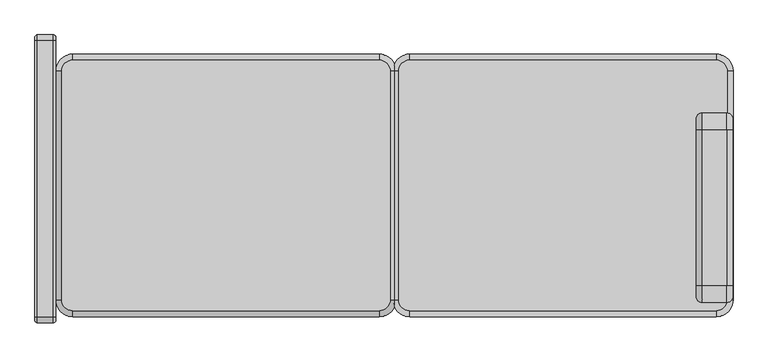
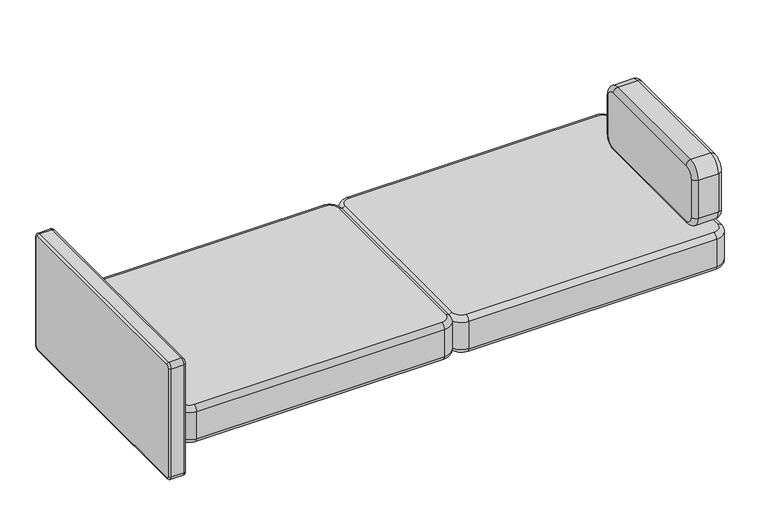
"""IFC4 building model written with IfcOpenShell, lengths in millimetres: furniture geometry, Fredericia - EJ220 Sofa 2 seater 100 - 2062 : Fredericia - EJ220 Sofa 2 seater 100 - 2062."""

from ifc_helpers import new_model, si_unit, point, frame, origin, place, context, project, spatial, circle_curve, ellipse_curve, trimmed, source, transform, mapped, element, save
from ifc_brep_helpers import plane_surface, cylinder_surface, revolved_surface, advanced_brep


def furniture_535c16df(model_context):
    return source(origin(), model_context, "Body", "AdvancedBrep", [
        advanced_brep(
        [(982.2998936, 743.0641303, 290.0), (982.2998936, 67.7, 290.0), (949.6320736, 35.0321801, 290.0), (45.0, 35.0321801, 290.0), (12.3321801, 67.7, 290.0), (12.3321801, 743.0641303, 290.0), (45.0, 775.7319503, 290.0), (949.6320736, 775.7319503, 290.0), (982.2998936, 67.7, 429.8211901), (982.2998936, 743.0641303, 429.8211901), (949.6320736, 775.7319503, 429.8211901), (45.0, 775.7319503, 429.8211901), (12.3321801, 743.0641303, 429.8211901), (12.3321801, 67.7, 429.8211901), (45.0, 35.0321801, 429.8211901), (949.6320736, 35.0321801, 429.8211901), (999.6320736, 743.0641303, 307.3273289), (999.6320736, 743.0641303, 412.4890101), (999.6320736, 67.7, 412.4890101), (999.6320736, 67.7, 307.3273289), (949.6320736, 17.7, 307.3273289), (949.6320736, 17.7, 412.4890101), (45.0, 17.7, 412.4890101), (45.0, 17.7, 307.3273289), (-5.0, 67.7, 307.3273289), (-5.0, 67.7, 412.4890101), (-5.0, 743.0641303, 412.4890101), (-5.0, 743.0641303, 307.3273289), (45.0, 793.0641303, 307.3273289), (45.0, 793.0641303, 412.4890101), (949.6320736, 793.0641303, 412.4890101), (949.6320736, 793.0641303, 307.3273289)],
        [
            (0, 1),
            (1, 2, circle_curve(frame((949.6320736, 67.7, 290.0), z_axis=(0.0, 0.0, -1.0), x_axis=(1.0, 0.0, 0.0)), 32.6678199)),
            (2, 3),
            (3, 4, circle_curve(frame((45.0, 67.7, 290.0), z_axis=(0.0, 0.0, -1.0), x_axis=(0.0, -1.0, 0.0)), 32.6678199)),
            (4, 5),
            (5, 6, circle_curve(frame((45.0, 743.0641303, 290.0), z_axis=(0.0, 0.0, -1.0), x_axis=(-1.0, 0.0, 0.0)), 32.6678199)),
            (6, 7),
            (7, 0, circle_curve(frame((949.6320736, 743.0641303, 290.0), z_axis=(0.0, 0.0, -1.0), x_axis=(0.0, 1.0, 0.0)), 32.6678199)),
            (8, 9),
            (9, 10, circle_curve(frame((949.6320736, 743.0641303, 429.8211901), z_axis=(0.0, 0.0, 1.0), x_axis=(0.0, 1.0, 0.0)), 32.6678199)),
            (10, 11),
            (11, 12, circle_curve(frame((45.0, 743.0641303, 429.8211901), z_axis=(0.0, 0.0, 1.0), x_axis=(-1.0, 0.0, 0.0)), 32.6678199)),
            (12, 13),
            (13, 14, circle_curve(frame((45.0, 67.7, 429.8211901), z_axis=(0.0, 0.0, 1.0), x_axis=(0.0, -1.0, 0.0)), 32.6678199)),
            (14, 15),
            (15, 8, circle_curve(frame((949.6320736, 67.7, 429.8211901), z_axis=(0.0, 0.0, 1.0), x_axis=(1.0, 0.0, 0.0)), 32.6678199)),
            (16, 17),
            (17, 18),
            (18, 19),
            (19, 16),
            (20, 21),
            (21, 22),
            (22, 23),
            (23, 20),
            (24, 25),
            (25, 26),
            (26, 27),
            (27, 24),
            (28, 29),
            (29, 30),
            (30, 31),
            (31, 28),
            (19, 1, circle_curve(frame((982.2998936, 67.7, 307.3273289), z_axis=(0.0, 1.0, 0.0), x_axis=(-1.0, 0.0, 0.0)), 17.3321801)),
            (0, 16, circle_curve(frame((982.2998936, 743.0641303, 307.3273289), z_axis=(0.0, -1.0, 0.0), x_axis=(-1.0, 0.0, 0.0)), 17.3321801)),
            (17, 9, circle_curve(frame((982.2998936, 743.0641303, 412.4890101), z_axis=(0.0, -1.0, 0.0), x_axis=(-1.0, 0.0, 0.0)), 17.3321801)),
            (8, 18, circle_curve(frame((982.2998936, 67.7, 412.4890101), z_axis=(0.0, 1.0, 0.0), x_axis=(-1.0, 0.0, 0.0)), 17.3321801)),
            (23, 3, circle_curve(frame((45.0, 35.0321801, 307.3273289), z_axis=(1.0, 0.0, 0.0), x_axis=(0.0, 1.0, 0.0)), 17.3321801)),
            (2, 20, circle_curve(frame((949.6320736, 35.0321801, 307.3273289), z_axis=(-1.0, 0.0, 0.0), x_axis=(0.0, 1.0, 0.0)), 17.3321801)),
            (21, 15, circle_curve(frame((949.6320736, 35.0321801, 412.4890101), z_axis=(-1.0, 0.0, 0.0), x_axis=(0.0, 1.0, 0.0)), 17.3321801)),
            (14, 22, circle_curve(frame((45.0, 35.0321801, 412.4890101), z_axis=(1.0, 0.0, 0.0), x_axis=(0.0, 1.0, 0.0)), 17.3321801)),
            (27, 5, circle_curve(frame((12.3321801, 743.0641303, 307.3273289), z_axis=(0.0, -1.0, 0.0), x_axis=(1.0, 0.0, 0.0)), 17.3321801)),
            (4, 24, circle_curve(frame((12.3321801, 67.7, 307.3273289), z_axis=(0.0, 1.0, 0.0), x_axis=(1.0, 0.0, 0.0)), 17.3321801)),
            (25, 13, circle_curve(frame((12.3321801, 67.7, 412.4890101), z_axis=(0.0, 1.0, 0.0), x_axis=(1.0, 0.0, 0.0)), 17.3321801)),
            (12, 26, circle_curve(frame((12.3321801, 743.0641303, 412.4890101), z_axis=(0.0, -1.0, 0.0), x_axis=(1.0, 0.0, 0.0)), 17.3321801)),
            (31, 7, circle_curve(frame((949.6320736, 775.7319503, 307.3273289), z_axis=(-1.0, 0.0, 0.0), x_axis=(0.0, -1.0, 0.0)), 17.3321801)),
            (6, 28, circle_curve(frame((45.0, 775.7319503, 307.3273289), z_axis=(1.0, 0.0, 0.0), x_axis=(0.0, -1.0, 0.0)), 17.3321801)),
            (29, 11, circle_curve(frame((45.0, 775.7319503, 412.4890101), z_axis=(1.0, 0.0, 0.0), x_axis=(0.0, -1.0, 0.0)), 17.3321801)),
            (10, 30, circle_curve(frame((949.6320736, 775.7319503, 412.4890101), z_axis=(-1.0, 0.0, 0.0), x_axis=(0.0, -1.0, 0.0)), 17.3321801)),
            (31, 16, circle_curve(frame((949.6320736, 743.0641303, 307.3273289), z_axis=(0.0, 0.0, -1.0), x_axis=(0.0, 1.0, 0.0)), 50.0)),
            (30, 17, circle_curve(frame((949.6320736, 743.0641303, 412.4890101), z_axis=(0.0, 0.0, -1.0), x_axis=(0.0, 1.0, 0.0)), 50.0)),
            (19, 20, circle_curve(frame((949.6320736, 67.7, 307.3273289), z_axis=(0.0, 0.0, -1.0), x_axis=(1.0, 0.0, 0.0)), 50.0)),
            (18, 21, circle_curve(frame((949.6320736, 67.7, 412.4890101), z_axis=(0.0, 0.0, -1.0), x_axis=(1.0, 0.0, 0.0)), 50.0)),
            (23, 24, circle_curve(frame((45.0, 67.7, 307.3273289), z_axis=(0.0, 0.0, -1.0), x_axis=(0.0, -1.0, 0.0)), 50.0)),
            (22, 25, circle_curve(frame((45.0, 67.7, 412.4890101), z_axis=(0.0, 0.0, -1.0), x_axis=(0.0, -1.0, 0.0)), 50.0)),
            (27, 28, circle_curve(frame((45.0, 743.0641303, 307.3273289), z_axis=(0.0, 0.0, -1.0), x_axis=(-1.0, 0.0, 0.0)), 50.0)),
            (26, 29, circle_curve(frame((45.0, 743.0641303, 412.4890101), z_axis=(0.0, 0.0, -1.0), x_axis=(-1.0, 0.0, 0.0)), 50.0)),
        ],
        [
            plane_surface(frame((919.6320736, 67.7, 290.0), z_axis=(0.0, 0.0, -1.0), x_axis=(0.0, 1.0, 0.0))),
            plane_surface(frame((919.6320736, 67.7, 429.8211901), z_axis=(0.0, 0.0, 1.0), x_axis=(0.0, -1.0, 0.0))),
            plane_surface(frame((999.6320736, 743.0641303, 412.4890101), z_axis=(1.0, 0.0, 0.0), x_axis=(0.0, -1.0, 0.0))),
            plane_surface(frame((949.6320736, 17.7, 412.4890101), z_axis=(0.0, -1.0, 0.0), x_axis=(-1.0, 0.0, 0.0))),
            plane_surface(frame((-5.0, 67.7, 412.4890101), z_axis=(-1.0, 0.0, 0.0), x_axis=(0.0, 1.0, 0.0))),
            plane_surface(frame((45.0, 793.0641303, 412.4890101), z_axis=(0.0, 1.0, 0.0), x_axis=(1.0, 0.0, 0.0))),
            cylinder_surface(frame((982.2998936, 743.0641303, 307.3273289), z_axis=(0.0, 1.0, 0.0), x_axis=(-1.0, 0.0, 0.0)), 17.3321801),
            cylinder_surface(frame((982.2998936, 743.0641303, 412.4890101), z_axis=(0.0, 1.0, 0.0), x_axis=(-1.0, 0.0, 0.0)), 17.3321801),
            cylinder_surface(frame((949.6320736, 35.0321801, 307.3273289), z_axis=(1.0, 0.0, 0.0), x_axis=(0.0, 1.0, 0.0)), 17.3321801),
            cylinder_surface(frame((949.6320736, 35.0321801, 412.4890101), z_axis=(1.0, 0.0, 0.0), x_axis=(0.0, 1.0, 0.0)), 17.3321801),
            cylinder_surface(frame((12.3321801, 67.7, 307.3273289), z_axis=(0.0, -1.0, 0.0), x_axis=(1.0, 0.0, 0.0)), 17.3321801),
            cylinder_surface(frame((12.3321801, 67.7, 412.4890101), z_axis=(0.0, -1.0, 0.0), x_axis=(1.0, 0.0, 0.0)), 17.3321801),
            cylinder_surface(frame((45.0, 775.7319503, 307.3273289), z_axis=(-1.0, 0.0, 0.0), x_axis=(0.0, -1.0, 0.0)), 17.3321801),
            cylinder_surface(frame((45.0, 775.7319503, 412.4890101), z_axis=(-1.0, 0.0, 0.0), x_axis=(0.0, -1.0, 0.0)), 17.3321801),
            revolved_surface(trimmed(ellipse_curve(frame((949.6320736, 775.7319503, 307.3273289), z_axis=(-1.0, 0.0, 0.0), x_axis=(0.0, -1.0, 0.0)), 17.3321801, 17.3321801), [point((949.6320736, 793.0641303, 307.3273289))], [point((949.6320736, 775.7319503, 289.9951488))], True, "CARTESIAN"), (949.6320736, 743.0641303, 474.7169816), (0.0, 0.0, -1.0)),
            cylinder_surface(frame((949.6320736, 743.0641303, 474.7169816), z_axis=(0.0, 0.0, -1.0), x_axis=(0.0, 1.0, 0.0)), 50.0),
            revolved_surface(trimmed(ellipse_curve(frame((949.6320736, 775.7319503, 412.4890101), z_axis=(-1.0, 0.0, 0.0), x_axis=(0.0, -1.0, 0.0)), 17.3321801, 17.3321801), [point((949.6320736, 775.7319503, 429.8211901))], [point((949.6320736, 793.0641303, 412.4890101))], True, "CARTESIAN"), (949.6320736, 743.0641303, 474.7169816), (0.0, 0.0, -1.0)),
            revolved_surface(trimmed(ellipse_curve(frame((982.2998936, 67.7, 307.3273289), z_axis=(0.0, 1.0, 0.0), x_axis=(-1.0, 0.0, 0.0)), 17.3321801, 17.3321801), [point((999.6320736, 67.7, 307.3273289))], [point((982.2998936, 67.7, 289.9951488))], True, "CARTESIAN"), (949.6320736, 67.7, 474.7169816), (0.0, 0.0, -1.0)),
            cylinder_surface(frame((949.6320736, 67.7, 474.7169816), z_axis=(0.0, 0.0, -1.0), x_axis=(1.0, 0.0, 0.0)), 50.0),
            revolved_surface(trimmed(ellipse_curve(frame((982.2998936, 67.7, 412.4890101), z_axis=(0.0, 1.0, 0.0), x_axis=(-1.0, 0.0, 0.0)), 17.3321801, 17.3321801), [point((982.2998936, 67.7, 429.8211901))], [point((999.6320736, 67.7, 412.4890101))], True, "CARTESIAN"), (949.6320736, 67.7, 474.7169816), (0.0, 0.0, -1.0)),
            revolved_surface(trimmed(ellipse_curve(frame((45.0, 35.0321801, 307.3273289), z_axis=(1.0, 0.0, 0.0), x_axis=(0.0, 1.0, 0.0)), 17.3321801, 17.3321801), [point((45.0, 17.7, 307.3273289))], [point((45.0, 35.0321801, 289.9951488))], True, "CARTESIAN"), (45.0, 67.7, 474.7169816), (0.0, 0.0, -1.0)),
            cylinder_surface(frame((45.0, 67.7, 474.7169816), z_axis=(0.0, 0.0, -1.0), x_axis=(0.0, -1.0, 0.0)), 50.0),
            revolved_surface(trimmed(ellipse_curve(frame((45.0, 35.0321801, 412.4890101), z_axis=(1.0, 0.0, 0.0), x_axis=(0.0, 1.0, 0.0)), 17.3321801, 17.3321801), [point((45.0, 35.0321801, 429.8211901))], [point((45.0, 17.7, 412.4890101))], True, "CARTESIAN"), (45.0, 67.7, 474.7169816), (0.0, 0.0, -1.0)),
            revolved_surface(trimmed(ellipse_curve(frame((12.3321801, 743.0641303, 307.3273289), z_axis=(0.0, -1.0, 0.0), x_axis=(1.0, 0.0, 0.0)), 17.3321801, 17.3321801), [point((-5.0, 743.0641303, 307.3273289))], [point((12.3321801, 743.0641303, 289.9951488))], True, "CARTESIAN"), (45.0, 743.0641303, 474.7169816), (0.0, 0.0, -1.0)),
            cylinder_surface(frame((45.0, 743.0641303, 474.7169816), z_axis=(0.0, 0.0, -1.0), x_axis=(-1.0, 0.0, 0.0)), 50.0),
            revolved_surface(trimmed(ellipse_curve(frame((12.3321801, 743.0641303, 412.4890101), z_axis=(0.0, -1.0, 0.0), x_axis=(1.0, 0.0, 0.0)), 17.3321801, 17.3321801), [point((12.3321801, 743.0641303, 429.8211901))], [point((-5.0, 743.0641303, 412.4890101))], True, "CARTESIAN"), (45.0, 743.0641303, 474.7169816), (0.0, 0.0, -1.0)),
        ],
        [
            (0, [[1, 2, 3, 4, 5, 6, 7, 8]]),
            (1, [[9, 10, 11, 12, 13, 14, 15, 16]]),
            (2, [[17, 18, 19, 20]]),
            (3, [[21, 22, 23, 24]]),
            (4, [[25, 26, 27, 28]]),
            (5, [[29, 30, 31, 32]]),
            (6, [[-20, 33, -1, 34]]),
            (7, [[-18, 35, -9, 36]]),
            (8, [[-24, 37, -3, 38]]),
            (9, [[-22, 39, -15, 40]]),
            (10, [[-28, 41, -5, 42]]),
            (11, [[-26, 43, -13, 44]]),
            (12, [[-32, 45, -7, 46]]),
            (13, [[-30, 47, -11, 48]]),
            (14, [[-34, -8, -45, 49]]),
            (15, [[-17, -49, -31, 50]]),
            (16, [[-35, -50, -48, -10]]),
            (17, [[-33, 51, -38, -2]]),
            (18, [[-19, 52, -21, -51]]),
            (19, [[-36, -16, -39, -52]]),
            (20, [[-37, 53, -42, -4]]),
            (21, [[-23, 54, -25, -53]]),
            (22, [[-40, -14, -43, -54]]),
            (23, [[-41, 55, -46, -6]]),
            (24, [[-27, 56, -29, -55]]),
            (25, [[-44, -12, -47, -56]]),
        ],
    ),
        advanced_brep(
        [(-999.6320736, 7.0681487, 623.8042203), (-999.6320736, 7.0681487, 207.3057774), (-999.6320736, 16.6681487, 197.7057774), (-999.6320736, 833.2580585, 197.7057774), (-999.6320736, 842.8580585, 207.3057774), (-999.6320736, 842.8580585, 623.8042203), (-999.6320736, 833.2580585, 633.4042203), (-999.6320736, 16.6681487, 633.4042203), (-1061.0578822, 7.0681487, 207.3057774), (-1061.0578822, 7.0681487, 623.8042203), (-1061.0578822, 16.6681487, 633.4042203), (-1061.0578822, 833.2580585, 633.4042203), (-1061.0578822, 842.8580585, 623.8042203), (-1061.0578822, 842.8580585, 207.3057774), (-1061.0578822, 833.2580585, 197.7057774), (-1061.0578822, 16.6681487, 197.7057774), (-1007.1320736, -0.4318513, 207.3057774), (-1007.1320736, -0.4318513, 623.8042203), (-1053.5578822, -0.4318513, 623.8042203), (-1053.5578822, -0.4318513, 207.3057774), (-1007.1320736, 16.6681487, 640.9042203), (-1007.1320736, 833.2580585, 640.9042203), (-1053.5578822, 833.2580585, 640.9042203), (-1053.5578822, 16.6681487, 640.9042203), (-1007.1320736, 850.3580585, 623.8042203), (-1007.1320736, 850.3580585, 207.3057774), (-1053.5578822, 850.3580585, 207.3057774), (-1053.5578822, 850.3580585, 623.8042203), (-1007.1320736, 833.2580585, 190.2057774), (-1007.1320736, 16.6681487, 190.2057774), (-1053.5578822, 16.6681487, 190.2057774), (-1053.5578822, 833.2580585, 190.2057774)],
        [
            (0, 1),
            (1, 2, circle_curve(frame((-999.6320736, 16.6681487, 207.3057774), z_axis=(1.0, 0.0, 0.0), x_axis=(0.0, 0.0, -1.0)), 9.6)),
            (2, 3),
            (3, 4, circle_curve(frame((-999.6320736, 833.2580585, 207.3057774), z_axis=(1.0, 0.0, 0.0), x_axis=(0.0, 1.0, 0.0)), 9.6)),
            (4, 5),
            (5, 6, circle_curve(frame((-999.6320736, 833.2580585, 623.8042203), z_axis=(1.0, 0.0, 0.0), x_axis=(0.0, 0.0, 1.0)), 9.6)),
            (6, 7),
            (7, 0, circle_curve(frame((-999.6320736, 16.6681487, 623.8042203), z_axis=(1.0, 0.0, 0.0), x_axis=(0.0, -1.0, 0.0)), 9.6)),
            (8, 9),
            (9, 10, circle_curve(frame((-1061.0578822, 16.6681487, 623.8042203), z_axis=(-1.0, 0.0, 0.0), x_axis=(0.0, -1.0, 0.0)), 9.6)),
            (10, 11),
            (11, 12, circle_curve(frame((-1061.0578822, 833.2580585, 623.8042203), z_axis=(-1.0, 0.0, 0.0), x_axis=(0.0, 0.0, 1.0)), 9.6)),
            (12, 13),
            (13, 14, circle_curve(frame((-1061.0578822, 833.2580585, 207.3057774), z_axis=(-1.0, 0.0, 0.0), x_axis=(0.0, 1.0, 0.0)), 9.6)),
            (14, 15),
            (15, 8, circle_curve(frame((-1061.0578822, 16.6681487, 207.3057774), z_axis=(-1.0, 0.0, 0.0), x_axis=(0.0, 0.0, -1.0)), 9.6)),
            (16, 1, circle_curve(frame((-1007.1320736, 7.0681487, 207.3057774), z_axis=(0.0, 0.0, 1.0), x_axis=(0.0, 1.0, 0.0)), 7.5)),
            (0, 17, circle_curve(frame((-1007.1320736, 7.0681487, 623.8042203), z_axis=(0.0, 0.0, -1.0), x_axis=(0.0, 1.0, 0.0)), 7.5)),
            (17, 16),
            (17, 18),
            (18, 19),
            (19, 16),
            (18, 9, circle_curve(frame((-1053.5578822, 7.0681487, 623.8042203), z_axis=(0.0, 0.0, -1.0), x_axis=(0.0, 1.0, 0.0)), 7.5)),
            (8, 19, circle_curve(frame((-1053.5578822, 7.0681487, 207.3057774), z_axis=(0.0, 0.0, 1.0), x_axis=(0.0, 1.0, 0.0)), 7.5)),
            (20, 7, circle_curve(frame((-1007.1320736, 16.6681487, 633.4042203), z_axis=(0.0, 1.0, 0.0), x_axis=(0.0, 0.0, -1.0)), 7.5)),
            (6, 21, circle_curve(frame((-1007.1320736, 833.2580585, 633.4042203), z_axis=(0.0, -1.0, 0.0), x_axis=(0.0, 0.0, -1.0)), 7.5)),
            (21, 20),
            (21, 22),
            (22, 23),
            (23, 20),
            (22, 11, circle_curve(frame((-1053.5578822, 833.2580585, 633.4042203), z_axis=(0.0, -1.0, 0.0), x_axis=(0.0, 0.0, -1.0)), 7.5)),
            (10, 23, circle_curve(frame((-1053.5578822, 16.6681487, 633.4042203), z_axis=(0.0, 1.0, 0.0), x_axis=(0.0, 0.0, -1.0)), 7.5)),
            (24, 5, circle_curve(frame((-1007.1320736, 842.8580585, 623.8042203), z_axis=(0.0, 0.0, -1.0), x_axis=(0.0, -1.0, 0.0)), 7.5)),
            (4, 25, circle_curve(frame((-1007.1320736, 842.8580585, 207.3057774), z_axis=(0.0, 0.0, 1.0), x_axis=(0.0, -1.0, 0.0)), 7.5)),
            (25, 24),
            (25, 26),
            (26, 27),
            (27, 24),
            (26, 13, circle_curve(frame((-1053.5578822, 842.8580585, 207.3057774), z_axis=(0.0, 0.0, 1.0), x_axis=(0.0, -1.0, 0.0)), 7.5)),
            (12, 27, circle_curve(frame((-1053.5578822, 842.8580585, 623.8042203), z_axis=(0.0, 0.0, -1.0), x_axis=(0.0, -1.0, 0.0)), 7.5)),
            (28, 3, circle_curve(frame((-1007.1320736, 833.2580585, 197.7057774), z_axis=(0.0, -1.0, 0.0), x_axis=(0.0, 0.0, 1.0)), 7.5)),
            (2, 29, circle_curve(frame((-1007.1320736, 16.6681487, 197.7057774), z_axis=(0.0, 1.0, 0.0), x_axis=(0.0, 0.0, 1.0)), 7.5)),
            (29, 28),
            (29, 30),
            (30, 31),
            (31, 28),
            (30, 15, circle_curve(frame((-1053.5578822, 16.6681487, 197.7057774), z_axis=(0.0, 1.0, 0.0), x_axis=(0.0, 0.0, 1.0)), 7.5)),
            (14, 31, circle_curve(frame((-1053.5578822, 833.2580585, 197.7057774), z_axis=(0.0, -1.0, 0.0), x_axis=(0.0, 0.0, 1.0)), 7.5)),
            (16, 29, circle_curve(frame((-1007.1320736, 16.6681487, 207.3057774), z_axis=(1.0, 0.0, 0.0), x_axis=(0.0, 0.0, -1.0)), 17.1)),
            (19, 30, circle_curve(frame((-1053.5578822, 16.6681487, 207.3057774), z_axis=(1.0, 0.0, 0.0), x_axis=(0.0, 0.0, -1.0)), 17.1)),
            (20, 17, circle_curve(frame((-1007.1320736, 16.6681487, 623.8042203), z_axis=(1.0, 0.0, 0.0), x_axis=(0.0, -1.0, 0.0)), 17.1)),
            (23, 18, circle_curve(frame((-1053.5578822, 16.6681487, 623.8042203), z_axis=(1.0, 0.0, 0.0), x_axis=(0.0, -1.0, 0.0)), 17.1)),
            (24, 21, circle_curve(frame((-1007.1320736, 833.2580585, 623.8042203), z_axis=(1.0, 0.0, 0.0), x_axis=(0.0, 0.0, 1.0)), 17.1)),
            (27, 22, circle_curve(frame((-1053.5578822, 833.2580585, 623.8042203), z_axis=(1.0, 0.0, 0.0), x_axis=(0.0, 0.0, 1.0)), 17.1)),
            (28, 25, circle_curve(frame((-1007.1320736, 833.2580585, 207.3057774), z_axis=(1.0, 0.0, 0.0), x_axis=(0.0, 1.0, 0.0)), 17.1)),
            (31, 26, circle_curve(frame((-1053.5578822, 833.2580585, 207.3057774), z_axis=(1.0, 0.0, 0.0), x_axis=(0.0, 1.0, 0.0)), 17.1)),
        ],
        [
            plane_surface(frame((-999.6320736, 828.5456131, 625.9042203), z_axis=(1.0, 0.0, 0.0), x_axis=(0.0, -1.0, 0.0))),
            plane_surface(frame((-1061.0578822, 828.5456131, 625.9042203), z_axis=(-1.0, 0.0, 0.0), x_axis=(0.0, 1.0, 0.0))),
            cylinder_surface(frame((-1007.1320736, 7.0681487, 207.3057774), z_axis=(0.0, 0.0, -1.0), x_axis=(0.0, 1.0, 0.0)), 7.5),
            plane_surface(frame((-1007.1320736, -0.4318513, 207.3057774), z_axis=(0.0, -1.0, 0.0), x_axis=(0.0, 0.0, 1.0))),
            cylinder_surface(frame((-1053.5578822, 7.0681487, 207.3057774), z_axis=(0.0, 0.0, -1.0), x_axis=(0.0, 1.0, 0.0)), 7.5),
            cylinder_surface(frame((-1007.1320736, 16.6681487, 633.4042203), z_axis=(0.0, -1.0, 0.0), x_axis=(0.0, 0.0, -1.0)), 7.5),
            plane_surface(frame((-1007.1320736, 16.6681487, 640.9042203), z_axis=(0.0, 0.0, 1.0), x_axis=(0.0, 1.0, 0.0))),
            cylinder_surface(frame((-1053.5578822, 16.6681487, 633.4042203), z_axis=(0.0, -1.0, 0.0), x_axis=(0.0, 0.0, -1.0)), 7.5),
            cylinder_surface(frame((-1007.1320736, 842.8580585, 623.8042203), z_axis=(0.0, 0.0, 1.0), x_axis=(0.0, -1.0, 0.0)), 7.5),
            plane_surface(frame((-1007.1320736, 850.3580585, 623.8042203), z_axis=(0.0, 1.0, 0.0), x_axis=(0.0, 0.0, -1.0))),
            cylinder_surface(frame((-1053.5578822, 842.8580585, 623.8042203), z_axis=(0.0, 0.0, 1.0), x_axis=(0.0, -1.0, 0.0)), 7.5),
            cylinder_surface(frame((-1007.1320736, 833.2580585, 197.7057774), z_axis=(0.0, 1.0, 0.0), x_axis=(0.0, 0.0, 1.0)), 7.5),
            plane_surface(frame((-1007.1320736, 833.2580585, 190.2057774), z_axis=(0.0, 0.0, -1.0), x_axis=(0.0, -1.0, 0.0))),
            cylinder_surface(frame((-1053.5578822, 833.2580585, 197.7057774), z_axis=(0.0, 1.0, 0.0), x_axis=(0.0, 0.0, 1.0)), 7.5),
            revolved_surface(trimmed(ellipse_curve(frame((-1007.1320736, 16.6681487, 197.7057774), z_axis=(0.0, 1.0, 0.0), x_axis=(0.0, 0.0, 1.0)), 7.5, 7.5), [point((-999.6320736, 16.6681487, 197.7057774))], [point((-1007.1320736, 16.6681487, 190.2057774))], True, "CARTESIAN"), (-1061.0578822, 16.6681487, 207.3057774), (-1.0, 0.0, 0.0)),
            cylinder_surface(frame((-1061.0578822, 16.6681487, 207.3057774), z_axis=(-1.0, 0.0, 0.0), x_axis=(0.0, 0.0, -1.0)), 17.1),
            revolved_surface(trimmed(ellipse_curve(frame((-1053.5578822, 16.6681487, 197.7057774), z_axis=(0.0, 1.0, 0.0), x_axis=(0.0, 0.0, 1.0)), 7.5, 7.5), [point((-1053.5578822, 16.6681487, 190.2057774))], [point((-1061.0578822, 16.6681487, 197.7057774))], True, "CARTESIAN"), (-1061.0578822, 16.6681487, 207.3057774), (-1.0, 0.0, 0.0)),
            revolved_surface(trimmed(ellipse_curve(frame((-1007.1320736, 7.0681487, 623.8042203), z_axis=(0.0, 0.0, -1.0), x_axis=(0.0, 1.0, 0.0)), 7.5, 7.5), [point((-999.6320736, 7.0681487, 623.8042203))], [point((-1007.1320736, -0.4318513, 623.8042203))], True, "CARTESIAN"), (-1061.0578822, 16.6681487, 623.8042203), (-1.0, 0.0, 0.0)),
            cylinder_surface(frame((-1061.0578822, 16.6681487, 623.8042203), z_axis=(-1.0, 0.0, 0.0), x_axis=(0.0, -1.0, 0.0)), 17.1),
            revolved_surface(trimmed(ellipse_curve(frame((-1053.5578822, 7.0681487, 623.8042203), z_axis=(0.0, 0.0, -1.0), x_axis=(0.0, 1.0, 0.0)), 7.5, 7.5), [point((-1053.5578822, -0.4318513, 623.8042203))], [point((-1061.0578822, 7.0681487, 623.8042203))], True, "CARTESIAN"), (-1061.0578822, 16.6681487, 623.8042203), (-1.0, 0.0, 0.0)),
            revolved_surface(trimmed(ellipse_curve(frame((-1007.1320736, 833.2580585, 633.4042203), z_axis=(0.0, -1.0, 0.0), x_axis=(0.0, 0.0, -1.0)), 7.5, 7.5), [point((-999.6320736, 833.2580585, 633.4042203))], [point((-1007.1320736, 833.2580585, 640.9042203))], True, "CARTESIAN"), (-1061.0578822, 833.2580585, 623.8042203), (-1.0, 0.0, 0.0)),
            cylinder_surface(frame((-1061.0578822, 833.2580585, 623.8042203), z_axis=(-1.0, 0.0, 0.0), x_axis=(0.0, 0.0, 1.0)), 17.1),
            revolved_surface(trimmed(ellipse_curve(frame((-1053.5578822, 833.2580585, 633.4042203), z_axis=(0.0, -1.0, 0.0), x_axis=(0.0, 0.0, -1.0)), 7.5, 7.5), [point((-1053.5578822, 833.2580585, 640.9042203))], [point((-1061.0578822, 833.2580585, 633.4042203))], True, "CARTESIAN"), (-1061.0578822, 833.2580585, 623.8042203), (-1.0, 0.0, 0.0)),
            revolved_surface(trimmed(ellipse_curve(frame((-1007.1320736, 842.8580585, 207.3057774), z_axis=(0.0, 0.0, 1.0), x_axis=(0.0, -1.0, 0.0)), 7.5, 7.5), [point((-999.6320736, 842.8580585, 207.3057774))], [point((-1007.1320736, 850.3580585, 207.3057774))], True, "CARTESIAN"), (-1061.0578822, 833.2580585, 207.3057774), (-1.0, 0.0, 0.0)),
            cylinder_surface(frame((-1061.0578822, 833.2580585, 207.3057774), z_axis=(-1.0, 0.0, 0.0), x_axis=(0.0, 1.0, 0.0)), 17.1),
            revolved_surface(trimmed(ellipse_curve(frame((-1053.5578822, 842.8580585, 207.3057774), z_axis=(0.0, 0.0, 1.0), x_axis=(0.0, -1.0, 0.0)), 7.5, 7.5), [point((-1053.5578822, 850.3580585, 207.3057774))], [point((-1061.0578822, 842.8580585, 207.3057774))], True, "CARTESIAN"), (-1061.0578822, 833.2580585, 207.3057774), (-1.0, 0.0, 0.0)),
        ],
        [
            (0, [[1, 2, 3, 4, 5, 6, 7, 8]]),
            (1, [[9, 10, 11, 12, 13, 14, 15, 16]]),
            (2, [[17, -1, 18, 19]]),
            (3, [[-19, 20, 21, 22]]),
            (4, [[-21, 23, -9, 24]]),
            (5, [[25, -7, 26, 27]]),
            (6, [[-27, 28, 29, 30]]),
            (7, [[-29, 31, -11, 32]]),
            (8, [[33, -5, 34, 35]]),
            (9, [[-35, 36, 37, 38]]),
            (10, [[-37, 39, -13, 40]]),
            (11, [[41, -3, 42, 43]]),
            (12, [[-43, 44, 45, 46]]),
            (13, [[-45, 47, -15, 48]]),
            (14, [[-17, 49, -42, -2]]),
            (15, [[-22, 50, -44, -49]]),
            (16, [[-24, -16, -47, -50]]),
            (17, [[-18, -8, -25, 51]]),
            (18, [[-20, -51, -30, 52]]),
            (19, [[-23, -52, -32, -10]]),
            (20, [[-26, -6, -33, 53]]),
            (21, [[-28, -53, -38, 54]]),
            (22, [[-31, -54, -40, -12]]),
            (23, [[-34, -4, -41, 55]]),
            (24, [[-36, -55, -46, 56]]),
            (25, [[-39, -56, -48, -14]]),
        ],
    ),
        advanced_brep(
        [(-982.2998936, 67.7, 290.0), (-982.2998936, 743.0641303, 290.0), (-949.6320736, 775.7319503, 290.0), (-45.0, 775.7319503, 290.0), (-12.3321801, 743.0641303, 290.0), (-12.3321801, 67.7, 290.0), (-45.0, 35.0321801, 290.0), (-949.6320736, 35.0321801, 290.0), (-982.2998936, 743.0641303, 429.8211901), (-982.2998936, 67.7, 429.8211901), (-949.6320736, 35.0321801, 429.8211901), (-45.0, 35.0321801, 429.8211901), (-12.3321801, 67.7, 429.8211901), (-12.3321801, 743.0641303, 429.8211901), (-45.0, 775.7319503, 429.8211901), (-949.6320736, 775.7319503, 429.8211901), (-999.6320736, 743.0641303, 412.4890101), (-999.6320736, 743.0641303, 307.3273289), (-999.6320736, 67.7, 307.3273289), (-999.6320736, 67.7, 412.4890101), (-949.6320736, 17.7, 412.4890101), (-949.6320736, 17.7, 307.3273289), (-45.0, 17.7, 307.3273289), (-45.0, 17.7, 412.4890101), (5.0, 67.7, 412.4890101), (5.0, 67.7, 307.3273289), (5.0, 743.0641303, 307.3273289), (5.0, 743.0641303, 412.4890101), (-45.0, 793.0641303, 412.4890101), (-45.0, 793.0641303, 307.3273289), (-949.6320736, 793.0641303, 307.3273289), (-949.6320736, 793.0641303, 412.4890101)],
        [
            (0, 1),
            (1, 2, circle_curve(frame((-949.6320736, 743.0641303, 290.0), z_axis=(0.0, 0.0, -1.0), x_axis=(0.0, 1.0, 0.0)), 32.6678199)),
            (2, 3),
            (3, 4, circle_curve(frame((-45.0, 743.0641303, 290.0), z_axis=(0.0, 0.0, -1.0), x_axis=(1.0, 0.0, 0.0)), 32.6678199)),
            (4, 5),
            (5, 6, circle_curve(frame((-45.0, 67.7, 290.0), z_axis=(0.0, 0.0, -1.0), x_axis=(0.0, -1.0, 0.0)), 32.6678199)),
            (6, 7),
            (7, 0, circle_curve(frame((-949.6320736, 67.7, 290.0), z_axis=(0.0, 0.0, -1.0), x_axis=(-1.0, 0.0, 0.0)), 32.6678199)),
            (8, 9),
            (9, 10, circle_curve(frame((-949.6320736, 67.7, 429.8211901), z_axis=(0.0, 0.0, 1.0), x_axis=(-1.0, 0.0, 0.0)), 32.6678199)),
            (10, 11),
            (11, 12, circle_curve(frame((-45.0, 67.7, 429.8211901), z_axis=(0.0, 0.0, 1.0), x_axis=(0.0, -1.0, 0.0)), 32.6678199)),
            (12, 13),
            (13, 14, circle_curve(frame((-45.0, 743.0641303, 429.8211901), z_axis=(0.0, 0.0, 1.0), x_axis=(1.0, 0.0, 0.0)), 32.6678199)),
            (14, 15),
            (15, 8, circle_curve(frame((-949.6320736, 743.0641303, 429.8211901), z_axis=(0.0, 0.0, 1.0), x_axis=(0.0, 1.0, 0.0)), 32.6678199)),
            (16, 17),
            (17, 18),
            (18, 19),
            (19, 16),
            (20, 21),
            (21, 22),
            (22, 23),
            (23, 20),
            (24, 25),
            (25, 26),
            (26, 27),
            (27, 24),
            (28, 29),
            (29, 30),
            (30, 31),
            (31, 28),
            (17, 1, circle_curve(frame((-982.2998936, 743.0641303, 307.3273289), z_axis=(0.0, -1.0, 0.0), x_axis=(1.0, 0.0, 0.0)), 17.3321801)),
            (0, 18, circle_curve(frame((-982.2998936, 67.7, 307.3273289), z_axis=(0.0, 1.0, 0.0), x_axis=(1.0, 0.0, 0.0)), 17.3321801)),
            (19, 9, circle_curve(frame((-982.2998936, 67.7, 412.4890101), z_axis=(0.0, 1.0, 0.0), x_axis=(1.0, 0.0, 0.0)), 17.3321801)),
            (8, 16, circle_curve(frame((-982.2998936, 743.0641303, 412.4890101), z_axis=(0.0, -1.0, 0.0), x_axis=(1.0, 0.0, 0.0)), 17.3321801)),
            (21, 7, circle_curve(frame((-949.6320736, 35.0321801, 307.3273289), z_axis=(1.0, 0.0, 0.0), x_axis=(0.0, 1.0, 0.0)), 17.3321801)),
            (6, 22, circle_curve(frame((-45.0, 35.0321801, 307.3273289), z_axis=(-1.0, 0.0, 0.0), x_axis=(0.0, 1.0, 0.0)), 17.3321801)),
            (23, 11, circle_curve(frame((-45.0, 35.0321801, 412.4890101), z_axis=(-1.0, 0.0, 0.0), x_axis=(0.0, 1.0, 0.0)), 17.3321801)),
            (10, 20, circle_curve(frame((-949.6320736, 35.0321801, 412.4890101), z_axis=(1.0, 0.0, 0.0), x_axis=(0.0, 1.0, 0.0)), 17.3321801)),
            (25, 5, circle_curve(frame((-12.3321801, 67.7, 307.3273289), z_axis=(0.0, 1.0, 0.0), x_axis=(-1.0, 0.0, 0.0)), 17.3321801)),
            (4, 26, circle_curve(frame((-12.3321801, 743.0641303, 307.3273289), z_axis=(0.0, -1.0, 0.0), x_axis=(-1.0, 0.0, 0.0)), 17.3321801)),
            (27, 13, circle_curve(frame((-12.3321801, 743.0641303, 412.4890101), z_axis=(0.0, -1.0, 0.0), x_axis=(-1.0, 0.0, 0.0)), 17.3321801)),
            (12, 24, circle_curve(frame((-12.3321801, 67.7, 412.4890101), z_axis=(0.0, 1.0, 0.0), x_axis=(-1.0, 0.0, 0.0)), 17.3321801)),
            (29, 3, circle_curve(frame((-45.0, 775.7319503, 307.3273289), z_axis=(-1.0, 0.0, 0.0), x_axis=(0.0, -1.0, 0.0)), 17.3321801)),
            (2, 30, circle_curve(frame((-949.6320736, 775.7319503, 307.3273289), z_axis=(1.0, 0.0, 0.0), x_axis=(0.0, -1.0, 0.0)), 17.3321801)),
            (31, 15, circle_curve(frame((-949.6320736, 775.7319503, 412.4890101), z_axis=(1.0, 0.0, 0.0), x_axis=(0.0, -1.0, 0.0)), 17.3321801)),
            (14, 28, circle_curve(frame((-45.0, 775.7319503, 412.4890101), z_axis=(-1.0, 0.0, 0.0), x_axis=(0.0, -1.0, 0.0)), 17.3321801)),
            (17, 30, circle_curve(frame((-949.6320736, 743.0641303, 307.3273289), z_axis=(0.0, 0.0, -1.0), x_axis=(0.0, 1.0, 0.0)), 50.0)),
            (16, 31, circle_curve(frame((-949.6320736, 743.0641303, 412.4890101), z_axis=(0.0, 0.0, -1.0), x_axis=(0.0, 1.0, 0.0)), 50.0)),
            (21, 18, circle_curve(frame((-949.6320736, 67.7, 307.3273289), z_axis=(0.0, 0.0, -1.0), x_axis=(-1.0, 0.0, 0.0)), 50.0)),
            (20, 19, circle_curve(frame((-949.6320736, 67.7, 412.4890101), z_axis=(0.0, 0.0, -1.0), x_axis=(-1.0, 0.0, 0.0)), 50.0)),
            (25, 22, circle_curve(frame((-45.0, 67.7, 307.3273289), z_axis=(0.0, 0.0, -1.0), x_axis=(0.0, -1.0, 0.0)), 50.0)),
            (24, 23, circle_curve(frame((-45.0, 67.7, 412.4890101), z_axis=(0.0, 0.0, -1.0), x_axis=(0.0, -1.0, 0.0)), 50.0)),
            (29, 26, circle_curve(frame((-45.0, 743.0641303, 307.3273289), z_axis=(0.0, 0.0, -1.0), x_axis=(1.0, 0.0, 0.0)), 50.0)),
            (28, 27, circle_curve(frame((-45.0, 743.0641303, 412.4890101), z_axis=(0.0, 0.0, -1.0), x_axis=(1.0, 0.0, 0.0)), 50.0)),
        ],
        [
            plane_surface(frame((401.9530797, 37.7, 290.0), z_axis=(0.0, 0.0, -1.0), x_axis=(-1.0, 0.0, 0.0))),
            plane_surface(frame((401.9530797, 37.7, 429.8211901), z_axis=(0.0, 0.0, 1.0), x_axis=(1.0, 0.0, 0.0))),
            plane_surface(frame((-999.6320736, 743.0641303, 307.3273289), z_axis=(-1.0, 0.0, 0.0), x_axis=(0.0, -1.0, 0.0))),
            plane_surface(frame((-949.6320736, 17.7, 307.3273289), z_axis=(0.0, -1.0, 0.0), x_axis=(1.0, 0.0, 0.0))),
            plane_surface(frame((5.0, 67.7, 307.3273289), z_axis=(1.0, 0.0, 0.0), x_axis=(0.0, 1.0, 0.0))),
            plane_surface(frame((-45.0, 793.0641303, 307.3273289), z_axis=(0.0, 1.0, 0.0), x_axis=(-1.0, 0.0, 0.0))),
            cylinder_surface(frame((-982.2998936, 743.0641303, 307.3273289), z_axis=(0.0, 1.0, 0.0), x_axis=(1.0, 0.0, 0.0)), 17.3321801),
            cylinder_surface(frame((-982.2998936, 743.0641303, 412.4890101), z_axis=(0.0, 1.0, 0.0), x_axis=(1.0, 0.0, 0.0)), 17.3321801),
            cylinder_surface(frame((-949.6320736, 35.0321801, 307.3273289), z_axis=(-1.0, 0.0, 0.0), x_axis=(0.0, 1.0, 0.0)), 17.3321801),
            cylinder_surface(frame((-949.6320736, 35.0321801, 412.4890101), z_axis=(-1.0, 0.0, 0.0), x_axis=(0.0, 1.0, 0.0)), 17.3321801),
            cylinder_surface(frame((-12.3321801, 67.7, 307.3273289), z_axis=(0.0, -1.0, 0.0), x_axis=(-1.0, 0.0, 0.0)), 17.3321801),
            cylinder_surface(frame((-12.3321801, 67.7, 412.4890101), z_axis=(0.0, -1.0, 0.0), x_axis=(-1.0, 0.0, 0.0)), 17.3321801),
            cylinder_surface(frame((-45.0, 775.7319503, 307.3273289), z_axis=(1.0, 0.0, 0.0), x_axis=(0.0, -1.0, 0.0)), 17.3321801),
            cylinder_surface(frame((-45.0, 775.7319503, 412.4890101), z_axis=(1.0, 0.0, 0.0), x_axis=(0.0, -1.0, 0.0)), 17.3321801),
            revolved_surface(trimmed(ellipse_curve(frame((-949.6320736, 775.7319503, 307.3273289), z_axis=(1.0, 0.0, 0.0), x_axis=(0.0, -1.0, 0.0)), 17.3321801, 17.3321801), [point((-949.6320736, 775.7319503, 289.9951488))], [point((-949.6320736, 793.0641303, 307.3273289))], True, "CARTESIAN"), (-949.6320736, 743.0641303, 474.7169816), (0.0, 0.0, 1.0)),
            cylinder_surface(frame((-949.6320736, 743.0641303, 474.7169816), z_axis=(0.0, 0.0, 1.0), x_axis=(0.0, 1.0, 0.0)), 50.0),
            revolved_surface(trimmed(ellipse_curve(frame((-949.6320736, 775.7319503, 412.4890101), z_axis=(1.0, 0.0, 0.0), x_axis=(0.0, -1.0, 0.0)), 17.3321801, 17.3321801), [point((-949.6320736, 793.0641303, 412.4890101))], [point((-949.6320736, 775.7319503, 429.8211901))], True, "CARTESIAN"), (-949.6320736, 743.0641303, 474.7169816), (0.0, 0.0, 1.0)),
            revolved_surface(trimmed(ellipse_curve(frame((-982.2998936, 67.7, 307.3273289), z_axis=(0.0, 1.0, 0.0), x_axis=(1.0, 0.0, 0.0)), 17.3321801, 17.3321801), [point((-982.2998936, 67.7, 289.9951488))], [point((-999.6320736, 67.7, 307.3273289))], True, "CARTESIAN"), (-949.6320736, 67.7, 474.7169816), (0.0, 0.0, 1.0)),
            cylinder_surface(frame((-949.6320736, 67.7, 474.7169816), z_axis=(0.0, 0.0, 1.0), x_axis=(-1.0, 0.0, 0.0)), 50.0),
            revolved_surface(trimmed(ellipse_curve(frame((-982.2998936, 67.7, 412.4890101), z_axis=(0.0, 1.0, 0.0), x_axis=(1.0, 0.0, 0.0)), 17.3321801, 17.3321801), [point((-999.6320736, 67.7, 412.4890101))], [point((-982.2998936, 67.7, 429.8211901))], True, "CARTESIAN"), (-949.6320736, 67.7, 474.7169816), (0.0, 0.0, 1.0)),
            revolved_surface(trimmed(ellipse_curve(frame((-45.0, 35.0321801, 307.3273289), z_axis=(-1.0, 0.0, 0.0), x_axis=(0.0, 1.0, 0.0)), 17.3321801, 17.3321801), [point((-45.0, 35.0321801, 289.9951488))], [point((-45.0, 17.7, 307.3273289))], True, "CARTESIAN"), (-45.0, 67.7, 474.7169816), (0.0, 0.0, 1.0)),
            cylinder_surface(frame((-45.0, 67.7, 474.7169816), z_axis=(0.0, 0.0, 1.0), x_axis=(0.0, -1.0, 0.0)), 50.0),
            revolved_surface(trimmed(ellipse_curve(frame((-45.0, 35.0321801, 412.4890101), z_axis=(-1.0, 0.0, 0.0), x_axis=(0.0, 1.0, 0.0)), 17.3321801, 17.3321801), [point((-45.0, 17.7, 412.4890101))], [point((-45.0, 35.0321801, 429.8211901))], True, "CARTESIAN"), (-45.0, 67.7, 474.7169816), (0.0, 0.0, 1.0)),
            revolved_surface(trimmed(ellipse_curve(frame((-12.3321801, 743.0641303, 307.3273289), z_axis=(0.0, -1.0, 0.0), x_axis=(-1.0, 0.0, 0.0)), 17.3321801, 17.3321801), [point((-12.3321801, 743.0641303, 289.9951488))], [point((5.0, 743.0641303, 307.3273289))], True, "CARTESIAN"), (-45.0, 743.0641303, 474.7169816), (0.0, 0.0, 1.0)),
            cylinder_surface(frame((-45.0, 743.0641303, 474.7169816), z_axis=(0.0, 0.0, 1.0), x_axis=(1.0, 0.0, 0.0)), 50.0),
            revolved_surface(trimmed(ellipse_curve(frame((-12.3321801, 743.0641303, 412.4890101), z_axis=(0.0, -1.0, 0.0), x_axis=(-1.0, 0.0, 0.0)), 17.3321801, 17.3321801), [point((5.0, 743.0641303, 412.4890101))], [point((-12.3321801, 743.0641303, 429.8211901))], True, "CARTESIAN"), (-45.0, 743.0641303, 474.7169816), (0.0, 0.0, 1.0)),
        ],
        [
            (0, [[1, 2, 3, 4, 5, 6, 7, 8]]),
            (1, [[9, 10, 11, 12, 13, 14, 15, 16]]),
            (2, [[17, 18, 19, 20]]),
            (3, [[21, 22, 23, 24]]),
            (4, [[25, 26, 27, 28]]),
            (5, [[29, 30, 31, 32]]),
            (6, [[-18, 33, -1, 34]]),
            (7, [[-20, 35, -9, 36]]),
            (8, [[-22, 37, -7, 38]]),
            (9, [[-24, 39, -11, 40]]),
            (10, [[-26, 41, -5, 42]]),
            (11, [[-28, 43, -13, 44]]),
            (12, [[-30, 45, -3, 46]]),
            (13, [[-32, 47, -15, 48]]),
            (14, [[-33, 49, -46, -2]]),
            (15, [[-17, 50, -31, -49]]),
            (16, [[-36, -16, -47, -50]]),
            (17, [[-34, -8, -37, 51]]),
            (18, [[-19, -51, -21, 52]]),
            (19, [[-35, -52, -40, -10]]),
            (20, [[-38, -6, -41, 53]]),
            (21, [[-23, -53, -25, 54]]),
            (22, [[-39, -54, -44, -12]]),
            (23, [[-42, -4, -45, 55]]),
            (24, [[-27, -55, -29, 56]]),
            (25, [[-43, -56, -48, -14]]),
        ],
    ),
        advanced_brep(
        [(998.4140678, 569.5681487, 663.3026247), (998.4140678, 109.5681487, 663.3026247), (998.4140678, 76.9003288, 630.6348048), (998.4140678, 76.9003288, 484.0806659), (998.4140678, 109.5681487, 451.412846), (998.4140678, 569.5681487, 451.412846), (998.4140678, 602.2359687, 484.0806659), (998.4140678, 602.2359687, 630.6348048), (890.7501158, 109.5681487, 663.3026247), (890.7501158, 569.5681487, 663.3026247), (890.7501158, 602.2359687, 630.6348048), (890.7501158, 602.2359687, 484.0806659), (890.7501158, 569.5681487, 451.412846), (890.7501158, 109.5681487, 451.412846), (890.7501158, 76.9003288, 484.0806659), (890.7501158, 76.9003288, 630.6348048), (981.086739, 569.5681487, 680.6348048), (908.093458, 569.5681487, 680.6348048), (908.093458, 109.5681487, 680.6348048), (981.086739, 109.5681487, 680.6348048), (981.086739, 59.5681487, 630.6348048), (908.093458, 59.5681487, 630.6348048), (908.093458, 59.5681487, 484.0806659), (981.086739, 59.5681487, 484.0806659), (981.086739, 109.5681487, 434.0806659), (908.093458, 109.5681487, 434.0806659), (908.093458, 569.5681487, 434.0806659), (981.086739, 569.5681487, 434.0806659), (981.086739, 619.5681487, 484.0806659), (908.093458, 619.5681487, 484.0806659), (908.093458, 619.5681487, 630.6348048), (981.086739, 619.5681487, 630.6348048)],
        [
            (0, 1),
            (1, 2, circle_curve(frame((998.4140678, 109.5681487, 630.6348048), z_axis=(1.0, 0.0, 0.0), x_axis=(0.0, 0.0, 1.0)), 32.6678199)),
            (2, 3),
            (3, 4, circle_curve(frame((998.4140678, 109.5681487, 484.0806659), z_axis=(1.0, 0.0, 0.0), x_axis=(0.0, -1.0, 0.0)), 32.6678199)),
            (4, 5),
            (5, 6, circle_curve(frame((998.4140678, 569.5681487, 484.0806659), z_axis=(1.0, 0.0, 0.0), x_axis=(0.0, 0.0, -1.0)), 32.6678199)),
            (6, 7),
            (7, 0, circle_curve(frame((998.4140678, 569.5681487, 630.6348048), z_axis=(1.0, 0.0, 0.0), x_axis=(0.0, 1.0, 0.0)), 32.6678199)),
            (8, 9),
            (9, 10, circle_curve(frame((890.7501158, 569.5681487, 630.6348048), z_axis=(-1.0, 0.0, 0.0), x_axis=(0.0, 1.0, 0.0)), 32.6678199)),
            (10, 11),
            (11, 12, circle_curve(frame((890.7501158, 569.5681487, 484.0806659), z_axis=(-1.0, 0.0, 0.0), x_axis=(0.0, 0.0, -1.0)), 32.6678199)),
            (12, 13),
            (13, 14, circle_curve(frame((890.7501158, 109.5681487, 484.0806659), z_axis=(-1.0, 0.0, 0.0), x_axis=(0.0, -1.0, 0.0)), 32.6678199)),
            (14, 15),
            (15, 8, circle_curve(frame((890.7501158, 109.5681487, 630.6348048), z_axis=(-1.0, 0.0, 0.0), x_axis=(0.0, 0.0, 1.0)), 32.6678199)),
            (16, 17),
            (17, 18),
            (18, 19),
            (19, 16),
            (20, 21),
            (21, 22),
            (22, 23),
            (23, 20),
            (24, 25),
            (25, 26),
            (26, 27),
            (27, 24),
            (28, 29),
            (29, 30),
            (30, 31),
            (31, 28),
            (19, 1, circle_curve(frame((981.086739, 109.5681487, 663.3026247), z_axis=(0.0, 1.0, 0.0), x_axis=(0.0, 0.0, -1.0)), 17.3321801)),
            (0, 16, circle_curve(frame((981.086739, 569.5681487, 663.3026247), z_axis=(0.0, -1.0, 0.0), x_axis=(0.0, 0.0, -1.0)), 17.3321801)),
            (17, 9, circle_curve(frame((908.093458, 569.5681487, 663.3026247), z_axis=(0.0, -1.0, 0.0), x_axis=(0.0, 0.0, -1.0)), 17.3321801)),
            (8, 18, circle_curve(frame((908.093458, 109.5681487, 663.3026247), z_axis=(0.0, 1.0, 0.0), x_axis=(0.0, 0.0, -1.0)), 17.3321801)),
            (23, 3, circle_curve(frame((981.086739, 76.9003288, 484.0806659), z_axis=(0.0, 0.0, 1.0), x_axis=(0.0, 1.0, 0.0)), 17.3321801)),
            (2, 20, circle_curve(frame((981.086739, 76.9003288, 630.6348048), z_axis=(0.0, 0.0, -1.0), x_axis=(0.0, 1.0, 0.0)), 17.3321801)),
            (21, 15, circle_curve(frame((908.093458, 76.9003288, 630.6348048), z_axis=(0.0, 0.0, -1.0), x_axis=(0.0, 1.0, 0.0)), 17.3321801)),
            (14, 22, circle_curve(frame((908.093458, 76.9003288, 484.0806659), z_axis=(0.0, 0.0, 1.0), x_axis=(0.0, 1.0, 0.0)), 17.3321801)),
            (27, 5, circle_curve(frame((981.086739, 569.5681487, 451.412846), z_axis=(0.0, -1.0, 0.0), x_axis=(0.0, 0.0, 1.0)), 17.3321801)),
            (4, 24, circle_curve(frame((981.086739, 109.5681487, 451.412846), z_axis=(0.0, 1.0, 0.0), x_axis=(0.0, 0.0, 1.0)), 17.3321801)),
            (25, 13, circle_curve(frame((908.093458, 109.5681487, 451.412846), z_axis=(0.0, 1.0, 0.0), x_axis=(0.0, 0.0, 1.0)), 17.3321801)),
            (12, 26, circle_curve(frame((908.093458, 569.5681487, 451.412846), z_axis=(0.0, -1.0, 0.0), x_axis=(0.0, 0.0, 1.0)), 17.3321801)),
            (31, 7, circle_curve(frame((981.086739, 602.2359687, 630.6348048), z_axis=(0.0, 0.0, -1.0), x_axis=(0.0, -1.0, 0.0)), 17.3321801)),
            (6, 28, circle_curve(frame((981.086739, 602.2359687, 484.0806659), z_axis=(0.0, 0.0, 1.0), x_axis=(0.0, -1.0, 0.0)), 17.3321801)),
            (29, 11, circle_curve(frame((908.093458, 602.2359687, 484.0806659), z_axis=(0.0, 0.0, 1.0), x_axis=(0.0, -1.0, 0.0)), 17.3321801)),
            (10, 30, circle_curve(frame((908.093458, 602.2359687, 630.6348048), z_axis=(0.0, 0.0, -1.0), x_axis=(0.0, -1.0, 0.0)), 17.3321801)),
            (31, 16, circle_curve(frame((981.086739, 569.5681487, 630.6348048), z_axis=(1.0, 0.0, 0.0), x_axis=(0.0, 1.0, 0.0)), 50.0)),
            (30, 17, circle_curve(frame((908.093458, 569.5681487, 630.6348048), z_axis=(1.0, 0.0, 0.0), x_axis=(0.0, 1.0, 0.0)), 50.0)),
            (19, 20, circle_curve(frame((981.086739, 109.5681487, 630.6348048), z_axis=(1.0, 0.0, 0.0), x_axis=(0.0, 0.0, 1.0)), 50.0)),
            (18, 21, circle_curve(frame((908.093458, 109.5681487, 630.6348048), z_axis=(1.0, 0.0, 0.0), x_axis=(0.0, 0.0, 1.0)), 50.0)),
            (23, 24, circle_curve(frame((981.086739, 109.5681487, 484.0806659), z_axis=(1.0, 0.0, 0.0), x_axis=(0.0, -1.0, 0.0)), 50.0)),
            (22, 25, circle_curve(frame((908.093458, 109.5681487, 484.0806659), z_axis=(1.0, 0.0, 0.0), x_axis=(0.0, -1.0, 0.0)), 50.0)),
            (27, 28, circle_curve(frame((981.086739, 569.5681487, 484.0806659), z_axis=(1.0, 0.0, 0.0), x_axis=(0.0, 0.0, -1.0)), 50.0)),
            (26, 29, circle_curve(frame((908.093458, 569.5681487, 484.0806659), z_axis=(1.0, 0.0, 0.0), x_axis=(0.0, 0.0, -1.0)), 50.0)),
        ],
        [
            plane_surface(frame((998.4140678, 109.5681487, 600.6348048), z_axis=(1.0, 0.0, 0.0), x_axis=(0.0, 1.0, 0.0))),
            plane_surface(frame((890.7501158, 109.5681487, 600.6348048), z_axis=(-1.0, 0.0, 0.0), x_axis=(0.0, -1.0, 0.0))),
            plane_surface(frame((908.093458, 569.5681487, 680.6348048), z_axis=(0.0, 0.0, 1.0), x_axis=(0.0, -1.0, 0.0))),
            plane_surface(frame((908.093458, 59.5681487, 630.6348048), z_axis=(0.0, -1.0, 0.0), x_axis=(0.0, 0.0, -1.0))),
            plane_surface(frame((908.093458, 109.5681487, 434.0806659), z_axis=(0.0, 0.0, -1.0), x_axis=(0.0, 1.0, 0.0))),
            plane_surface(frame((908.093458, 619.5681487, 484.0806659), z_axis=(0.0, 1.0, 0.0), x_axis=(0.0, 0.0, 1.0))),
            cylinder_surface(frame((981.086739, 569.5681487, 663.3026247), z_axis=(0.0, 1.0, 0.0), x_axis=(0.0, 0.0, -1.0)), 17.3321801),
            cylinder_surface(frame((908.093458, 569.5681487, 663.3026247), z_axis=(0.0, 1.0, 0.0), x_axis=(0.0, 0.0, -1.0)), 17.3321801),
            cylinder_surface(frame((981.086739, 76.9003288, 630.6348048), z_axis=(0.0, 0.0, 1.0), x_axis=(0.0, 1.0, 0.0)), 17.3321801),
            cylinder_surface(frame((908.093458, 76.9003288, 630.6348048), z_axis=(0.0, 0.0, 1.0), x_axis=(0.0, 1.0, 0.0)), 17.3321801),
            cylinder_surface(frame((981.086739, 109.5681487, 451.412846), z_axis=(0.0, -1.0, 0.0), x_axis=(0.0, 0.0, 1.0)), 17.3321801),
            cylinder_surface(frame((908.093458, 109.5681487, 451.412846), z_axis=(0.0, -1.0, 0.0), x_axis=(0.0, 0.0, 1.0)), 17.3321801),
            cylinder_surface(frame((981.086739, 602.2359687, 484.0806659), z_axis=(0.0, 0.0, -1.0), x_axis=(0.0, -1.0, 0.0)), 17.3321801),
            cylinder_surface(frame((908.093458, 602.2359687, 484.0806659), z_axis=(0.0, 0.0, -1.0), x_axis=(0.0, -1.0, 0.0)), 17.3321801),
            revolved_surface(trimmed(ellipse_curve(frame((981.086739, 602.2359687, 630.6348048), z_axis=(0.0, 0.0, -1.0), x_axis=(0.0, -1.0, 0.0)), 17.3321801, 17.3321801), [point((981.086739, 619.5681487, 630.6348048))], [point((998.418919, 602.2359687, 630.6348048))], True, "CARTESIAN"), (813.6970862, 569.5681487, 630.6348048), (1.0, 0.0, 0.0)),
            cylinder_surface(frame((813.6970862, 569.5681487, 630.6348048), z_axis=(1.0, 0.0, 0.0), x_axis=(0.0, 1.0, 0.0)), 50.0),
            revolved_surface(trimmed(ellipse_curve(frame((908.093458, 602.2359687, 630.6348048), z_axis=(0.0, 0.0, -1.0), x_axis=(0.0, -1.0, 0.0)), 17.3321801, 17.3321801), [point((890.7612779, 602.2359687, 630.6348048))], [point((908.093458, 619.5681487, 630.6348048))], True, "CARTESIAN"), (813.6970862, 569.5681487, 630.6348048), (1.0, 0.0, 0.0)),
            revolved_surface(trimmed(ellipse_curve(frame((981.086739, 109.5681487, 663.3026247), z_axis=(0.0, 1.0, 0.0), x_axis=(0.0, 0.0, -1.0)), 17.3321801, 17.3321801), [point((981.086739, 109.5681487, 680.6348048))], [point((998.418919, 109.5681487, 663.3026247))], True, "CARTESIAN"), (813.6970862, 109.5681487, 630.6348048), (1.0, 0.0, 0.0)),
            cylinder_surface(frame((813.6970862, 109.5681487, 630.6348048), z_axis=(1.0, 0.0, 0.0), x_axis=(0.0, 0.0, 1.0)), 50.0),
            revolved_surface(trimmed(ellipse_curve(frame((908.093458, 109.5681487, 663.3026247), z_axis=(0.0, 1.0, 0.0), x_axis=(0.0, 0.0, -1.0)), 17.3321801, 17.3321801), [point((890.7612779, 109.5681487, 663.3026247))], [point((908.093458, 109.5681487, 680.6348048))], True, "CARTESIAN"), (813.6970862, 109.5681487, 630.6348048), (1.0, 0.0, 0.0)),
            revolved_surface(trimmed(ellipse_curve(frame((981.086739, 76.9003288, 484.0806659), z_axis=(0.0, 0.0, 1.0), x_axis=(0.0, 1.0, 0.0)), 17.3321801, 17.3321801), [point((981.086739, 59.5681487, 484.0806659))], [point((998.418919, 76.9003288, 484.0806659))], True, "CARTESIAN"), (813.6970862, 109.5681487, 484.0806659), (1.0, 0.0, 0.0)),
            cylinder_surface(frame((813.6970862, 109.5681487, 484.0806659), z_axis=(1.0, 0.0, 0.0), x_axis=(0.0, -1.0, 0.0)), 50.0),
            revolved_surface(trimmed(ellipse_curve(frame((908.093458, 76.9003288, 484.0806659), z_axis=(0.0, 0.0, 1.0), x_axis=(0.0, 1.0, 0.0)), 17.3321801, 17.3321801), [point((890.7612779, 76.9003288, 484.0806659))], [point((908.093458, 59.5681487, 484.0806659))], True, "CARTESIAN"), (813.6970862, 109.5681487, 484.0806659), (1.0, 0.0, 0.0)),
            revolved_surface(trimmed(ellipse_curve(frame((981.086739, 569.5681487, 451.412846), z_axis=(0.0, -1.0, 0.0), x_axis=(0.0, 0.0, 1.0)), 17.3321801, 17.3321801), [point((981.086739, 569.5681487, 434.0806659))], [point((998.418919, 569.5681487, 451.412846))], True, "CARTESIAN"), (813.6970862, 569.5681487, 484.0806659), (1.0, 0.0, 0.0)),
            cylinder_surface(frame((813.6970862, 569.5681487, 484.0806659), z_axis=(1.0, 0.0, 0.0), x_axis=(0.0, 0.0, -1.0)), 50.0),
            revolved_surface(trimmed(ellipse_curve(frame((908.093458, 569.5681487, 451.412846), z_axis=(0.0, -1.0, 0.0), x_axis=(0.0, 0.0, 1.0)), 17.3321801, 17.3321801), [point((890.7612779, 569.5681487, 451.412846))], [point((908.093458, 569.5681487, 434.0806659))], True, "CARTESIAN"), (813.6970862, 569.5681487, 484.0806659), (1.0, 0.0, 0.0)),
        ],
        [
            (0, [[1, 2, 3, 4, 5, 6, 7, 8]]),
            (1, [[9, 10, 11, 12, 13, 14, 15, 16]]),
            (2, [[17, 18, 19, 20]]),
            (3, [[21, 22, 23, 24]]),
            (4, [[25, 26, 27, 28]]),
            (5, [[29, 30, 31, 32]]),
            (6, [[-20, 33, -1, 34]]),
            (7, [[-18, 35, -9, 36]]),
            (8, [[-24, 37, -3, 38]]),
            (9, [[-22, 39, -15, 40]]),
            (10, [[-28, 41, -5, 42]]),
            (11, [[-26, 43, -13, 44]]),
            (12, [[-32, 45, -7, 46]]),
            (13, [[-30, 47, -11, 48]]),
            (14, [[-34, -8, -45, 49]]),
            (15, [[-17, -49, -31, 50]]),
            (16, [[-35, -50, -48, -10]]),
            (17, [[-33, 51, -38, -2]]),
            (18, [[-19, 52, -21, -51]]),
            (19, [[-36, -16, -39, -52]]),
            (20, [[-37, 53, -42, -4]]),
            (21, [[-23, 54, -25, -53]]),
            (22, [[-40, -14, -43, -54]]),
            (23, [[-41, 55, -46, -6]]),
            (24, [[-27, 56, -29, -55]]),
            (25, [[-44, -12, -47, -56]]),
        ],
    ),
    ])


if __name__ == "__main__":
    model = new_model("IFC4")
    model_context = context("Model", 3, world=origin())
    ifc_project = project(units=[si_unit("LENGTHUNIT", "METRE", prefix="MILLI")], contexts=[model_context])
    site = spatial("IfcSite", under=ifc_project)
    building = spatial("IfcBuilding", under=site)
    placement = place(None, origin())
    furniture_shape = furniture_535c16df(model_context)
    element("IfcFurniture", 1, ObjectType="Fredericia - EJ220 Sofa 2 seater 100 - 2062 : Fredericia - EJ220 Sofa 2 seater 100 - 2062", at=placement, inside=building, context=model_context, shape_type="MappedRepresentation", body=[
        mapped(furniture_shape, transform((0.0, 0.0, 0.0), x_axis=(1.0, 0.0, 0.0), y_axis=(0.0, 1.0, 0.0), z_axis=(0.0, 0.0, 1.0))),
    ])
    save(model, "model.ifc")
